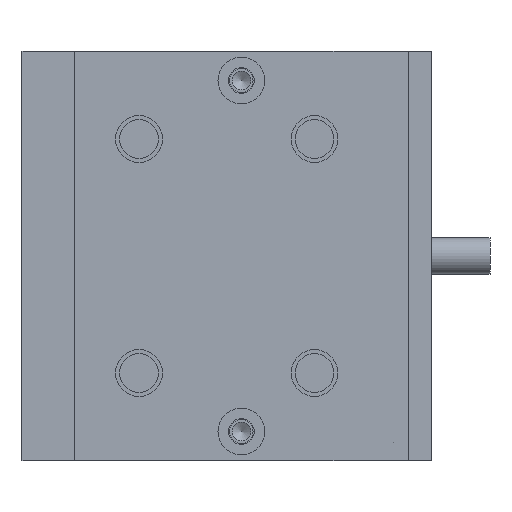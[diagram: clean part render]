
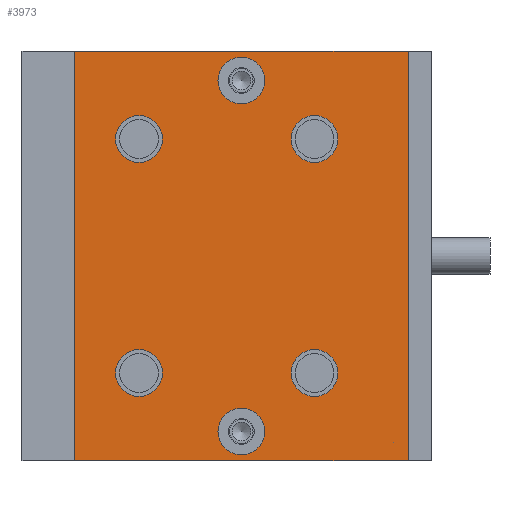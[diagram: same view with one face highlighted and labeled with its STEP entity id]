
A CAD part, left-side view. The second image highlights one B-rep face of the part: STEP entity #3973.
In plain terms, the highlighted planar face has unit normal (-1, 0, 0).
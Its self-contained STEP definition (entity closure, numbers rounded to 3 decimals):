
#68=FACE_BOUND('',#592,.T.);
#69=FACE_BOUND('',#593,.T.);
#70=FACE_BOUND('',#594,.T.);
#71=FACE_BOUND('',#595,.T.);
#72=FACE_BOUND('',#596,.T.);
#73=FACE_BOUND('',#597,.T.);
#174=PLANE('',#4362);
#345=FACE_OUTER_BOUND('',#591,.T.);
#591=EDGE_LOOP('',(#3337,#3338,#3339,#3340));
#592=EDGE_LOOP('',(#3341,#3342));
#593=EDGE_LOOP('',(#3343,#3344));
#594=EDGE_LOOP('',(#3345,#3346));
#595=EDGE_LOOP('',(#3347,#3348));
#596=EDGE_LOOP('',(#3349,#3350));
#597=EDGE_LOOP('',(#3351,#3352));
#767=LINE('',#5946,#1101);
#797=LINE('',#6062,#1131);
#959=LINE('',#6519,#1293);
#961=LINE('',#6522,#1295);
#1101=VECTOR('',#4664,1000.);
#1131=VECTOR('',#4780,1000.);
#1293=VECTOR('',#5224,10.);
#1295=VECTOR('',#5228,10.);
#1511=CIRCLE('',#4318,2.);
#1512=CIRCLE('',#4319,2.);
#1519=CIRCLE('',#4328,2.);
#1520=CIRCLE('',#4329,2.);
#1523=CIRCLE('',#4333,2.);
#1524=CIRCLE('',#4334,2.);
#1529=CIRCLE('',#4341,2.);
#1530=CIRCLE('',#4342,2.);
#1535=CIRCLE('',#4349,2.);
#1536=CIRCLE('',#4350,2.);
#1541=CIRCLE('',#4357,2.);
#1542=CIRCLE('',#4358,2.);
#1693=VERTEX_POINT('',#5934);
#1697=VERTEX_POINT('',#5944);
#1739=VERTEX_POINT('',#6059);
#1740=VERTEX_POINT('',#6061);
#1901=VERTEX_POINT('',#6539);
#1902=VERTEX_POINT('',#6541);
#1909=VERTEX_POINT('',#6559);
#1910=VERTEX_POINT('',#6561);
#1913=VERTEX_POINT('',#6569);
#1914=VERTEX_POINT('',#6571);
#1919=VERTEX_POINT('',#6585);
#1920=VERTEX_POINT('',#6587);
#1925=VERTEX_POINT('',#6601);
#1926=VERTEX_POINT('',#6603);
#1931=VERTEX_POINT('',#6617);
#1932=VERTEX_POINT('',#6619);
#2123=EDGE_CURVE('',#1693,#1697,#767,.T.);
#2179=EDGE_CURVE('',#1740,#1739,#797,.T.);
#2405=EDGE_CURVE('',#1740,#1697,#959,.T.);
#2407=EDGE_CURVE('',#1693,#1739,#961,.T.);
#2417=EDGE_CURVE('',#1901,#1902,#1511,.T.);
#2418=EDGE_CURVE('',#1902,#1901,#1512,.T.);
#2427=EDGE_CURVE('',#1909,#1910,#1519,.T.);
#2428=EDGE_CURVE('',#1910,#1909,#1520,.T.);
#2432=EDGE_CURVE('',#1913,#1914,#1523,.T.);
#2433=EDGE_CURVE('',#1914,#1913,#1524,.T.);
#2440=EDGE_CURVE('',#1919,#1920,#1529,.T.);
#2441=EDGE_CURVE('',#1920,#1919,#1530,.T.);
#2448=EDGE_CURVE('',#1925,#1926,#1535,.T.);
#2449=EDGE_CURVE('',#1926,#1925,#1536,.T.);
#2456=EDGE_CURVE('',#1931,#1932,#1541,.T.);
#2457=EDGE_CURVE('',#1932,#1931,#1542,.T.);
#3337=ORIENTED_EDGE('',*,*,#2179,.T.);
#3338=ORIENTED_EDGE('',*,*,#2407,.F.);
#3339=ORIENTED_EDGE('',*,*,#2123,.T.);
#3340=ORIENTED_EDGE('',*,*,#2405,.F.);
#3341=ORIENTED_EDGE('',*,*,#2418,.F.);
#3342=ORIENTED_EDGE('',*,*,#2417,.F.);
#3343=ORIENTED_EDGE('',*,*,#2428,.F.);
#3344=ORIENTED_EDGE('',*,*,#2427,.F.);
#3345=ORIENTED_EDGE('',*,*,#2433,.F.);
#3346=ORIENTED_EDGE('',*,*,#2432,.F.);
#3347=ORIENTED_EDGE('',*,*,#2441,.F.);
#3348=ORIENTED_EDGE('',*,*,#2440,.F.);
#3349=ORIENTED_EDGE('',*,*,#2449,.F.);
#3350=ORIENTED_EDGE('',*,*,#2448,.F.);
#3351=ORIENTED_EDGE('',*,*,#2457,.F.);
#3352=ORIENTED_EDGE('',*,*,#2456,.F.);
#3973=ADVANCED_FACE('',(#345,#68,#69,#70,#71,#72,#73),#174,.T.);
#4318=AXIS2_PLACEMENT_3D('',#6542,#5248,#5249);
#4319=AXIS2_PLACEMENT_3D('',#6543,#5250,#5251);
#4328=AXIS2_PLACEMENT_3D('',#6562,#5270,#5271);
#4329=AXIS2_PLACEMENT_3D('',#6563,#5272,#5273);
#4333=AXIS2_PLACEMENT_3D('',#6572,#5281,#5282);
#4334=AXIS2_PLACEMENT_3D('',#6573,#5283,#5284);
#4341=AXIS2_PLACEMENT_3D('',#6588,#5299,#5300);
#4342=AXIS2_PLACEMENT_3D('',#6589,#5301,#5302);
#4349=AXIS2_PLACEMENT_3D('',#6604,#5317,#5318);
#4350=AXIS2_PLACEMENT_3D('',#6605,#5319,#5320);
#4357=AXIS2_PLACEMENT_3D('',#6620,#5335,#5336);
#4358=AXIS2_PLACEMENT_3D('',#6621,#5337,#5338);
#4362=AXIS2_PLACEMENT_3D('',#6628,#5346,#5347);
#4664=DIRECTION('',(0.,0.,1.));
#4780=DIRECTION('',(0.,0.,-1.));
#5224=DIRECTION('',(0.,-1.,0.));
#5228=DIRECTION('',(0.,1.,0.));
#5248=DIRECTION('center_axis',(-1.,0.,0.));
#5249=DIRECTION('ref_axis',(0.,1.,0.));
#5250=DIRECTION('center_axis',(-1.,0.,0.));
#5251=DIRECTION('ref_axis',(0.,1.,0.));
#5270=DIRECTION('center_axis',(-1.,0.,0.));
#5271=DIRECTION('ref_axis',(0.,1.,0.));
#5272=DIRECTION('center_axis',(-1.,0.,0.));
#5273=DIRECTION('ref_axis',(0.,1.,0.));
#5281=DIRECTION('center_axis',(-1.,0.,0.));
#5282=DIRECTION('ref_axis',(0.,1.,0.));
#5283=DIRECTION('center_axis',(-1.,0.,0.));
#5284=DIRECTION('ref_axis',(0.,1.,0.));
#5299=DIRECTION('center_axis',(-1.,0.,0.));
#5300=DIRECTION('ref_axis',(0.,1.,0.));
#5301=DIRECTION('center_axis',(-1.,0.,0.));
#5302=DIRECTION('ref_axis',(0.,1.,0.));
#5317=DIRECTION('center_axis',(-1.,0.,0.));
#5318=DIRECTION('ref_axis',(0.,1.,0.));
#5319=DIRECTION('center_axis',(-1.,0.,0.));
#5320=DIRECTION('ref_axis',(0.,1.,0.));
#5335=DIRECTION('center_axis',(-1.,0.,0.));
#5336=DIRECTION('ref_axis',(0.,1.,0.));
#5337=DIRECTION('center_axis',(-1.,0.,0.));
#5338=DIRECTION('ref_axis',(0.,1.,0.));
#5346=DIRECTION('center_axis',(-1.,0.,0.));
#5347=DIRECTION('ref_axis',(0.,1.,0.));
#5934=CARTESIAN_POINT('',(-55.,-33.,-35.));
#5944=CARTESIAN_POINT('',(-55.,-33.,0.));
#5946=CARTESIAN_POINT('',(-55.,-33.,0.));
#6059=CARTESIAN_POINT('',(-55.,-4.5,-35.));
#6061=CARTESIAN_POINT('',(-55.,-4.5,0.));
#6062=CARTESIAN_POINT('',(-55.,-4.5,0.));
#6519=CARTESIAN_POINT('',(-55.,-18.75,0.));
#6522=CARTESIAN_POINT('',(-55.,-18.75,-35.));
#6539=CARTESIAN_POINT('',(-55.,-20.75,-2.5));
#6541=CARTESIAN_POINT('',(-55.,-18.75,-0.5));
#6542=CARTESIAN_POINT('Origin',(-55.,-18.75,-2.5));
#6543=CARTESIAN_POINT('Origin',(-55.,-18.75,-2.5));
#6559=CARTESIAN_POINT('',(-55.,-20.75,-32.5));
#6561=CARTESIAN_POINT('',(-55.,-18.75,-34.5));
#6562=CARTESIAN_POINT('Origin',(-55.,-18.75,-32.5));
#6563=CARTESIAN_POINT('Origin',(-55.,-18.75,-32.5));
#6569=CARTESIAN_POINT('',(-55.,-27.,-7.5));
#6571=CARTESIAN_POINT('',(-55.,-23.,-7.5));
#6572=CARTESIAN_POINT('Origin',(-55.,-25.,-7.5));
#6573=CARTESIAN_POINT('Origin',(-55.,-25.,-7.5));
#6585=CARTESIAN_POINT('',(-55.,-12.,-7.5));
#6587=CARTESIAN_POINT('',(-55.,-8.,-7.5));
#6588=CARTESIAN_POINT('Origin',(-55.,-10.,-7.5));
#6589=CARTESIAN_POINT('Origin',(-55.,-10.,-7.5));
#6601=CARTESIAN_POINT('',(-55.,-12.,-27.5));
#6603=CARTESIAN_POINT('',(-55.,-8.,-27.5));
#6604=CARTESIAN_POINT('Origin',(-55.,-10.,-27.5));
#6605=CARTESIAN_POINT('Origin',(-55.,-10.,-27.5));
#6617=CARTESIAN_POINT('',(-55.,-27.,-27.5));
#6619=CARTESIAN_POINT('',(-55.,-23.,-27.5));
#6620=CARTESIAN_POINT('Origin',(-55.,-25.,-27.5));
#6621=CARTESIAN_POINT('Origin',(-55.,-25.,-27.5));
#6628=CARTESIAN_POINT('Origin',(-55.,-4.5,0.));
